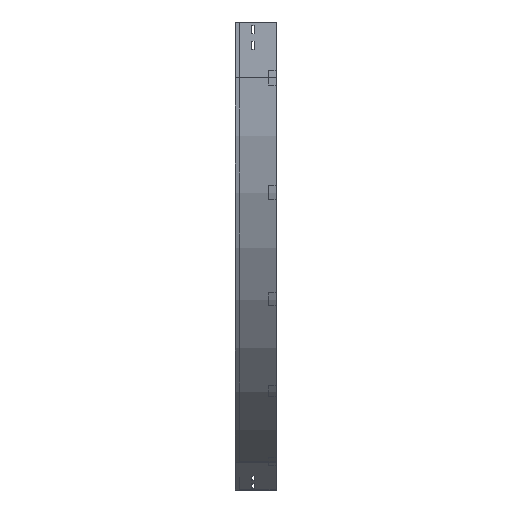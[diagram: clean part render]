
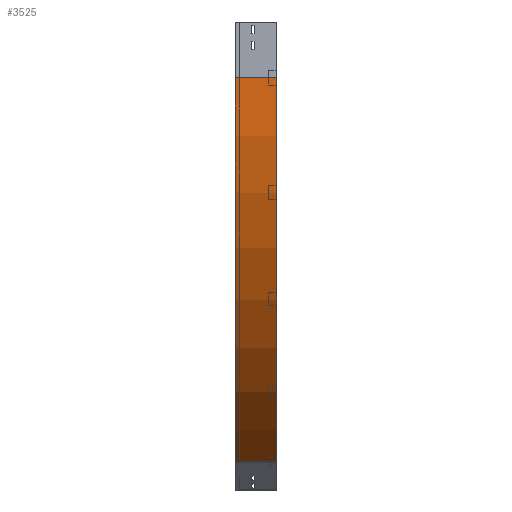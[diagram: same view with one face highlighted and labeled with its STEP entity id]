
A CAD part, left-side view. The second image highlights one B-rep face of the part: STEP entity #3525.
In plain terms, the highlighted cylindrical face has radius 1200 mm (diameter 2400 mm), a partial arc.
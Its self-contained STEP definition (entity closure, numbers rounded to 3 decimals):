
#7 = CARTESIAN_POINT ( 'NONE',  ( 1200., 112.5, -150. ) ) ;
#12 = ORIENTED_EDGE ( 'NONE', *, *, #733, .T. ) ;
#226 = DIRECTION ( 'NONE',  ( 0., -1., 0. ) ) ;
#399 = DIRECTION ( 'NONE',  ( 0., -1., 0. ) ) ;
#510 = DIRECTION ( 'NONE',  ( 0., -1., 0. ) ) ;
#587 = DIRECTION ( 'NONE',  ( 0., 0., -1. ) ) ;
#679 = ORIENTED_EDGE ( 'NONE', *, *, #3740, .T. ) ;
#681 = CIRCLE ( 'NONE', #3111, 1200. ) ;
#704 = DIRECTION ( 'NONE',  ( 0., -1., 0. ) ) ;
#733 = EDGE_CURVE ( 'NONE', #1304, #3068, #681, .T. ) ;
#854 = CARTESIAN_POINT ( 'NONE',  ( 1200., 0., -150. ) ) ;
#1106 = DIRECTION ( 'NONE',  ( -1., 0., 0. ) ) ;
#1213 = CARTESIAN_POINT ( 'NONE',  ( 0., 112.5, -150. ) ) ;
#1304 = VERTEX_POINT ( 'NONE', #1213 ) ;
#1443 = FACE_OUTER_BOUND ( 'NONE', #3650, .T. ) ;
#1497 = EDGE_CURVE ( 'NONE', #1304, #3791, #2541, .T. ) ;
#1760 = CARTESIAN_POINT ( 'NONE',  ( 1200., 0., -150. ) ) ;
#1828 = CARTESIAN_POINT ( 'NONE',  ( 600., 0., -1189.23 ) ) ;
#1834 = VECTOR ( 'NONE', #399, 1000. ) ;
#2001 = CARTESIAN_POINT ( 'NONE',  ( 0., 0., -150. ) ) ;
#2036 = ORIENTED_EDGE ( 'NONE', *, *, #2826, .F. ) ;
#2271 = CARTESIAN_POINT ( 'NONE',  ( 0., 0., -150. ) ) ;
#2340 = ORIENTED_EDGE ( 'NONE', *, *, #1497, .F. ) ;
#2527 = LINE ( 'NONE', #2777, #1834 ) ;
#2541 = LINE ( 'NONE', #2271, #2726 ) ;
#2658 = DIRECTION ( 'NONE',  ( 0., -1., 0. ) ) ;
#2726 = VECTOR ( 'NONE', #704, 1000. ) ;
#2777 = CARTESIAN_POINT ( 'NONE',  ( 600., 0., -1189.23 ) ) ;
#2826 = EDGE_CURVE ( 'NONE', #3791, #3358, #3545, .T. ) ;
#3068 = VERTEX_POINT ( 'NONE', #3394 ) ;
#3111 = AXIS2_PLACEMENT_3D ( 'NONE', #7, #226, #3229 ) ;
#3168 = AXIS2_PLACEMENT_3D ( 'NONE', #1760, #2658, #1106 ) ;
#3229 = DIRECTION ( 'NONE',  ( -1., 0., 0. ) ) ;
#3358 = VERTEX_POINT ( 'NONE', #1828 ) ;
#3394 = CARTESIAN_POINT ( 'NONE',  ( 600., 112.5, -1189.23 ) ) ;
#3525 = ADVANCED_FACE ( 'NONE', ( #1443 ), #3831, .T. ) ;
#3545 = CIRCLE ( 'NONE', #3168, 1200. ) ;
#3650 = EDGE_LOOP ( 'NONE', ( #2036, #2340, #12, #679 ) ) ;
#3700 = AXIS2_PLACEMENT_3D ( 'NONE', #854, #510, #587 ) ;
#3740 = EDGE_CURVE ( 'NONE', #3068, #3358, #2527, .T. ) ;
#3791 = VERTEX_POINT ( 'NONE', #2001 ) ;
#3831 = CYLINDRICAL_SURFACE ( 'NONE', #3700, 1200. ) ;
